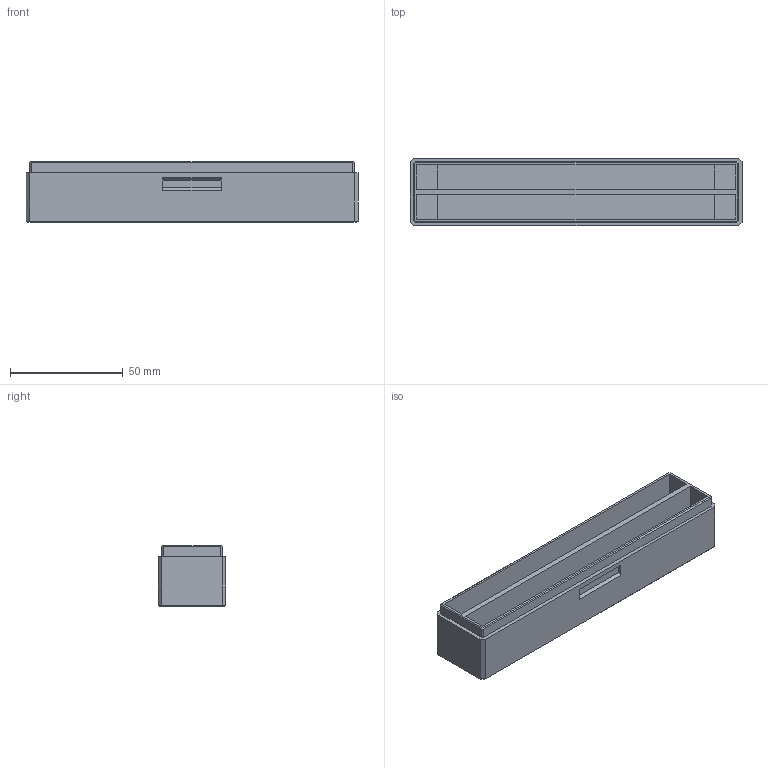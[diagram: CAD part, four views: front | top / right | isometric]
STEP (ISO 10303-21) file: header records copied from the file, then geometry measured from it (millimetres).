
FILE_DESCRIPTION(('Open CASCADE Model'),'2;1');
FILE_NAME('Open CASCADE Shape Model','2026-11-16T13:42:41',('Author'),( 'Open CASCADE'),'Open CASCADE STEP processor 8.0','build123d', 'Unknown');
FILE_SCHEMA(('AUTOMOTIVE_DESIGN { 1 0 10303 214 1 1 1 1 }'));
Products named in the file (1): COMPOUND
Bounding box: 147 x 30 x 27 mm (x, y, z)
Volume: 41966.5 mm3; surface area: 32951.1 mm2
Topology: 1 solids, 1 shells, 1183 faces, 3461 edges, 2302 vertices
Faces by surface type: plane 1183
Entity records: 83314 total; most frequent: CARTESIAN_POINT 13905, DIRECTION 12715, LINE 10347, VECTOR 10347, ORIENTED_EDGE 6922, PCURVE 6922, DEFINITIONAL_REPRESENTATION 6922, EDGE_CURVE 3461
